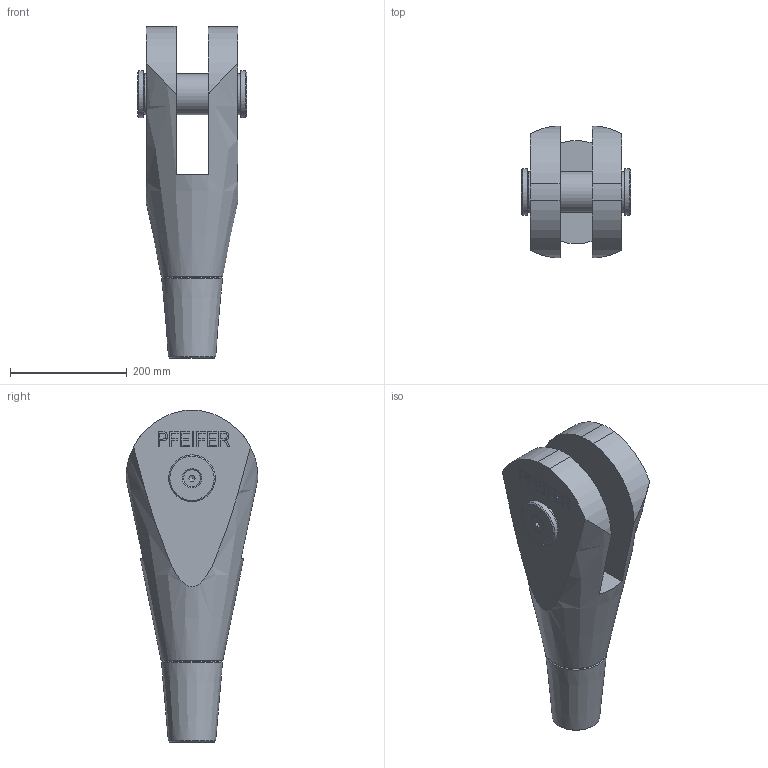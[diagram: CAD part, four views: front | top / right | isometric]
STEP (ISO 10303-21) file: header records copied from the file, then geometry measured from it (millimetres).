
FILE_DESCRIPTION(/* description */ (''),/* implementation_level */ '2;1');
FILE_NAME(/* name */ 'C:\Vault_WS\Designs\520-070-GAK.stp',/* time_stamp */ '2020-06-25T08:04:50+02:00',/* author */ ('schwarz'),/* organization */ (''),/* preprocessor_version */ 'ST-DEVELOPER v16.1',/* originating_system */ 'Autodesk Inventor 2016',/* authorisation */ '');
FILE_SCHEMA (('AUTOMOTIVE_DESIGN { 1 0 10303 214 3 1 1 }'));
Length unit declared in the file: centimetre
Products named in the file (1): 520-070-GAK-KMU-Kunde
Bounding box: 187.3 x 226.18 x 568.88 mm (x, y, z)
Volume: 8065170.3 mm3; surface area: 463118.6 mm2
Topology: 2 solids, 4 shells, 186 faces, 482 edges, 319 vertices
Faces by surface type: plane 136, bspline 21, cylinder 16, cone 13
Full cylindrical faces by diameter (mm): 13.835 x1, 16 x1, 17.5 x1, 29.01 x1, 70 x1, 73 x3, 80 x2
Entity records: 5777 total; most frequent: CARTESIAN_POINT 1272, ORIENTED_EDGE 900, DIRECTION 768, EDGE_CURVE 450, LINE 348, VECTOR 348, VERTEX_POINT 310, EDGE_LOOP 230
